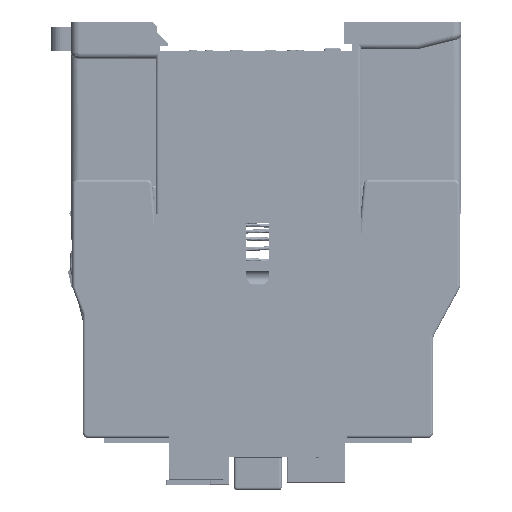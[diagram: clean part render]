
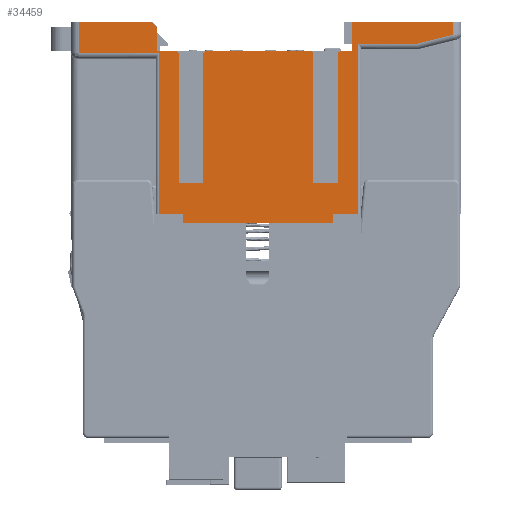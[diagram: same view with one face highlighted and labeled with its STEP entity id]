
A CAD part, left-side view. The second image highlights one B-rep face of the part: STEP entity #34459.
In plain terms, the highlighted planar face has unit normal (-1, 0, 0) as drawn and (1, 0, 0) by its records, which use the part's own axes.
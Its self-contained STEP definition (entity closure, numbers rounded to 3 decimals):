
#697=DIRECTION('',(0.,1.,0.));
#698=VECTOR('',#697,18.5);
#699=CARTESIAN_POINT('',(22.5,-34.15,0.));
#700=LINE('',#699,#698);
#826=DIRECTION('',(0.,1.,0.));
#827=VECTOR('',#826,13.3);
#828=CARTESIAN_POINT('',(22.5,20.85,0.));
#829=LINE('',#828,#827);
#1516=DIRECTION('',(0.,-1.,0.));
#1517=VECTOR('',#1516,27.4);
#1518=CARTESIAN_POINT('',(22.5,15.2,36.8));
#1519=LINE('',#1518,#1517);
#1700=DIRECTION('',(0.,0.707,-0.707));
#1701=VECTOR('',#1700,1.414);
#1702=CARTESIAN_POINT('',(22.5,19.85,1.));
#1703=LINE('',#1702,#1701);
#1704=DIRECTION('',(0.,0.,1.));
#1705=VECTOR('',#1704,4.3);
#1706=CARTESIAN_POINT('',(22.5,19.85,1.));
#1707=LINE('',#1706,#1705);
#1708=DIRECTION('',(0.,1.,0.));
#1709=VECTOR('',#1708,3.295);
#1710=CARTESIAN_POINT('',(22.5,16.555,5.3));
#1711=LINE('',#1710,#1709);
#1712=CARTESIAN_POINT('',(22.5,15.95,5.8));
#1713=CARTESIAN_POINT('',(22.5,15.95,5.708));
#1714=CARTESIAN_POINT('',(22.5,16.,5.574));
#1715=CARTESIAN_POINT('',(22.5,16.176,5.382));
#1716=CARTESIAN_POINT('',(22.5,16.371,5.3));
#1717=CARTESIAN_POINT('',(22.5,16.555,5.3));
#1719=DIRECTION('',(0.,0.,-1.));
#1720=VECTOR('',#1719,23.7);
#1721=CARTESIAN_POINT('',(22.5,15.95,29.5));
#1722=LINE('',#1721,#1720);
#1723=DIRECTION('',(0.,1.,0.));
#1724=VECTOR('',#1723,4.5);
#1725=CARTESIAN_POINT('',(22.5,11.45,29.5));
#1726=LINE('',#1725,#1724);
#1727=DIRECTION('',(0.,0.,1.));
#1728=VECTOR('',#1727,23.7);
#1729=CARTESIAN_POINT('',(22.5,11.45,5.8));
#1730=LINE('',#1729,#1728);
#1731=CARTESIAN_POINT('',(22.5,10.95,5.8));
#1732=DIRECTION('',(1.,0.,0.));
#1733=DIRECTION('',(0.,0.,-1.));
#1734=AXIS2_PLACEMENT_3D('',#1731,#1732,#1733);
#1736=DIRECTION('',(0.,1.,0.));
#1737=VECTOR('',#1736,19.);
#1738=CARTESIAN_POINT('',(22.5,-8.05,5.3));
#1739=LINE('',#1738,#1737);
#1740=CARTESIAN_POINT('',(22.5,-8.05,5.8));
#1741=DIRECTION('',(1.,0.,0.));
#1742=DIRECTION('',(0.,-1.,0.));
#1743=AXIS2_PLACEMENT_3D('',#1740,#1741,#1742);
#1745=DIRECTION('',(0.,0.,1.));
#1746=VECTOR('',#1745,23.7);
#1747=CARTESIAN_POINT('',(22.5,-8.55,5.8));
#1748=LINE('',#1747,#1746);
#1749=DIRECTION('',(0.,1.,0.));
#1750=VECTOR('',#1749,4.6);
#1751=CARTESIAN_POINT('',(22.5,-13.15,29.5));
#1752=LINE('',#1751,#1750);
#1753=DIRECTION('',(0.,0.,-1.));
#1754=VECTOR('',#1753,23.7);
#1755=CARTESIAN_POINT('',(22.5,-13.15,29.5));
#1756=LINE('',#1755,#1754);
#1757=CARTESIAN_POINT('',(22.5,-13.755,5.3));
#1758=CARTESIAN_POINT('',(22.5,-13.571,5.3));
#1759=CARTESIAN_POINT('',(22.5,-13.376,5.382));
#1760=CARTESIAN_POINT('',(22.5,-13.2,5.574));
#1761=CARTESIAN_POINT('',(22.5,-13.15,5.708));
#1762=CARTESIAN_POINT('',(22.5,-13.15,5.8));
#1764=DIRECTION('',(0.,1.,0.));
#1765=VECTOR('',#1764,1.895);
#1766=CARTESIAN_POINT('',(22.5,-15.65,5.3));
#1767=LINE('',#1766,#1765);
#1768=DIRECTION('',(0.,0.,1.));
#1769=VECTOR('',#1768,5.3);
#1770=CARTESIAN_POINT('',(22.5,-15.65,0.));
#1771=LINE('',#1770,#1769);
#1772=DIRECTION('',(0.,0.,-1.));
#1773=VECTOR('',#1772,2.344);
#1774=CARTESIAN_POINT('',(22.5,-34.15,2.344));
#1775=LINE('',#1774,#1773);
#1776=DIRECTION('',(0.,-0.97,-0.243));
#1777=VECTOR('',#1776,6.827);
#1778=CARTESIAN_POINT('',(22.5,-27.527,4.));
#1779=LINE('',#1778,#1777);
#1780=DIRECTION('',(0.,0.,1.));
#1781=VECTOR('',#1780,31.);
#1782=CARTESIAN_POINT('',(22.5,-16.85,4.));
#1783=LINE('',#1782,#1781);
#1784=DIRECTION('',(0.,-1.,0.));
#1785=VECTOR('',#1784,4.65);
#1786=CARTESIAN_POINT('',(22.5,-12.2,35.));
#1787=LINE('',#1786,#1785);
#1788=DIRECTION('',(0.,0.,-1.));
#1789=VECTOR('',#1788,1.8);
#1790=CARTESIAN_POINT('',(22.5,-12.2,36.8));
#1791=LINE('',#1790,#1789);
#1792=DIRECTION('',(0.,0.,-1.));
#1793=VECTOR('',#1792,1.8);
#1794=CARTESIAN_POINT('',(22.5,15.2,36.8));
#1795=LINE('',#1794,#1793);
#1796=DIRECTION('',(0.,-1.,0.));
#1797=VECTOR('',#1796,4.45);
#1798=CARTESIAN_POINT('',(22.5,19.65,35.));
#1799=LINE('',#1798,#1797);
#1800=DIRECTION('',(0.,0.,-1.));
#1801=VECTOR('',#1800,29.3);
#1802=CARTESIAN_POINT('',(22.5,19.65,35.));
#1803=LINE('',#1802,#1801);
#1804=DIRECTION('',(0.,0.,-1.));
#1805=VECTOR('',#1804,5.7);
#1806=CARTESIAN_POINT('',(22.5,34.15,5.7));
#1807=LINE('',#1806,#1805);
#21266=CARTESIAN_POINT('',(22.5,-34.15,2.344));
#23409=DIRECTION('',(0.,-1.,0.));
#23410=VECTOR('',#23409,14.5);
#23411=CARTESIAN_POINT('',(22.5,34.15,5.7));
#23412=LINE('',#23411,#23410);
#24001=DIRECTION('',(0.,-1.,0.));
#24002=VECTOR('',#24001,10.677);
#24003=CARTESIAN_POINT('',(22.5,-16.85,4.));
#24004=LINE('',#24003,#24002);
#24585=CARTESIAN_POINT('',(22.5,-15.65,0.));
#24586=CARTESIAN_POINT('',(22.5,-15.65,5.3));
#24587=VERTEX_POINT('',#24585);
#24588=VERTEX_POINT('',#24586);
#24651=CARTESIAN_POINT('',(22.5,-12.2,35.));
#24652=VERTEX_POINT('',#24651);
#24653=CARTESIAN_POINT('',(22.5,15.2,35.));
#24654=VERTEX_POINT('',#24653);
#24707=CARTESIAN_POINT('',(22.5,11.45,29.5));
#24709=VERTEX_POINT('',#24707);
#24711=CARTESIAN_POINT('',(22.5,-8.55,29.5));
#24713=VERTEX_POINT('',#24711);
#24751=CARTESIAN_POINT('',(22.5,-12.2,36.8));
#24753=VERTEX_POINT('',#24751);
#24756=CARTESIAN_POINT('',(22.5,15.2,36.8));
#24758=VERTEX_POINT('',#24756);
#24892=CARTESIAN_POINT('',(22.5,19.85,5.3));
#24894=VERTEX_POINT('',#24892);
#25373=CARTESIAN_POINT('',(22.5,15.95,29.5));
#25374=VERTEX_POINT('',#25373);
#25375=CARTESIAN_POINT('',(22.5,-13.15,29.5));
#25376=VERTEX_POINT('',#25375);
#32040=CARTESIAN_POINT('',(22.5,34.15,0.));
#32042=VERTEX_POINT('',#32040);
#32043=CARTESIAN_POINT('',(22.5,-34.15,0.));
#32045=VERTEX_POINT('',#32043);
#32063=VERTEX_POINT('',#21266);
#32065=CARTESIAN_POINT('',(22.5,-27.527,4.));
#32066=VERTEX_POINT('',#32065);
#32081=CARTESIAN_POINT('',(22.5,34.15,5.7));
#32082=VERTEX_POINT('',#32081);
#32105=CARTESIAN_POINT('',(22.5,-16.85,4.));
#32106=CARTESIAN_POINT('',(22.5,-16.85,35.));
#32107=VERTEX_POINT('',#32105);
#32108=VERTEX_POINT('',#32106);
#32113=CARTESIAN_POINT('',(22.5,19.65,35.));
#32114=CARTESIAN_POINT('',(22.5,19.65,5.7));
#32115=VERTEX_POINT('',#32113);
#32116=VERTEX_POINT('',#32114);
#32167=CARTESIAN_POINT('',(22.5,-8.55,5.8));
#32168=CARTESIAN_POINT('',(22.5,-8.05,5.3));
#32169=VERTEX_POINT('',#32167);
#32170=VERTEX_POINT('',#32168);
#32179=CARTESIAN_POINT('',(22.5,10.95,5.3));
#32180=VERTEX_POINT('',#32179);
#32181=CARTESIAN_POINT('',(22.5,11.45,5.8));
#32182=VERTEX_POINT('',#32181);
#32199=CARTESIAN_POINT('',(22.5,19.85,1.));
#32200=VERTEX_POINT('',#32199);
#32201=CARTESIAN_POINT('',(22.5,20.85,0.));
#32202=VERTEX_POINT('',#32201);
#32315=CARTESIAN_POINT('',(22.5,15.95,5.8));
#32317=VERTEX_POINT('',#32315);
#32319=VERTEX_POINT('',#1717);
#32322=VERTEX_POINT('',#1757);
#32323=VERTEX_POINT('',#1762);
#34400=CARTESIAN_POINT('',(22.5,-35.65,0.));
#34401=DIRECTION('',(1.,0.,0.));
#34402=DIRECTION('',(0.,1.,0.));
#34403=AXIS2_PLACEMENT_3D('',#34400,#34401,#34402);
#34404=PLANE('',#34403);
#34405=ORIENTED_EDGE('',*,*,#33669,.F.);
#34406=ORIENTED_EDGE('',*,*,#33642,.T.);
#34408=ORIENTED_EDGE('',*,*,#34407,.F.);
#34410=ORIENTED_EDGE('',*,*,#34409,.F.);
#34412=ORIENTED_EDGE('',*,*,#34411,.F.);
#34414=ORIENTED_EDGE('',*,*,#34413,.F.);
#34416=ORIENTED_EDGE('',*,*,#34415,.F.);
#34418=ORIENTED_EDGE('',*,*,#34417,.F.);
#34420=ORIENTED_EDGE('',*,*,#34419,.F.);
#34422=ORIENTED_EDGE('',*,*,#34421,.F.);
#34424=ORIENTED_EDGE('',*,*,#34423,.T.);
#34426=ORIENTED_EDGE('',*,*,#34425,.F.);
#34428=ORIENTED_EDGE('',*,*,#34427,.T.);
#34430=ORIENTED_EDGE('',*,*,#34429,.F.);
#34432=ORIENTED_EDGE('',*,*,#34431,.F.);
#34434=ORIENTED_EDGE('',*,*,#34433,.F.);
#34435=ORIENTED_EDGE('',*,*,#33170,.F.);
#34437=ORIENTED_EDGE('',*,*,#34436,.F.);
#34439=ORIENTED_EDGE('',*,*,#34438,.F.);
#34441=ORIENTED_EDGE('',*,*,#34440,.F.);
#34443=ORIENTED_EDGE('',*,*,#34442,.T.);
#34444=ORIENTED_EDGE('',*,*,#34357,.F.);
#34446=ORIENTED_EDGE('',*,*,#34445,.F.);
#34447=ORIENTED_EDGE('',*,*,#34187,.F.);
#34448=ORIENTED_EDGE('',*,*,#34320,.T.);
#34449=ORIENTED_EDGE('',*,*,#34330,.F.);
#34451=ORIENTED_EDGE('',*,*,#34450,.T.);
#34453=ORIENTED_EDGE('',*,*,#34452,.F.);
#34455=ORIENTED_EDGE('',*,*,#34454,.T.);
#34456=ORIENTED_EDGE('',*,*,#33246,.F.);
#34457=EDGE_LOOP('',(#34405,#34406,#34408,#34410,#34412,#34414,#34416,#34418,
#34420,#34422,#34424,#34426,#34428,#34430,#34432,#34434,#34435,#34437,#34439,
#34441,#34443,#34444,#34446,#34447,#34448,#34449,#34451,#34453,#34455,#34456));
#34458=FACE_OUTER_BOUND('',#34457,.F.);
#34459=ADVANCED_FACE('',(#34458),#34404,.T.);
#1718=B_SPLINE_CURVE_WITH_KNOTS('',3,(#1712,#1713,#1714,#1715,#1716,#1717),
.UNSPECIFIED.,.F.,.F.,(4,1,1,4),(0.,0.25,0.5,1.),.UNSPECIFIED.);
#1735=CIRCLE('',#1734,0.5);
#1744=CIRCLE('',#1743,0.5);
#1763=B_SPLINE_CURVE_WITH_KNOTS('',3,(#1757,#1758,#1759,#1760,#1761,#1762),
.UNSPECIFIED.,.F.,.F.,(4,1,1,4),(0.,0.5,0.75,1.),.UNSPECIFIED.);
#33170=EDGE_CURVE('',#32045,#24587,#700,.T.);
#33246=EDGE_CURVE('',#32202,#32042,#829,.T.);
#33642=EDGE_CURVE('',#32200,#24894,#1707,.T.);
#33669=EDGE_CURVE('',#32200,#32202,#1703,.T.);
#34187=EDGE_CURVE('',#24758,#24753,#1519,.T.);
#34320=EDGE_CURVE('',#24758,#24654,#1795,.T.);
#34330=EDGE_CURVE('',#32115,#24654,#1799,.T.);
#34357=EDGE_CURVE('',#24652,#32108,#1787,.T.);
#34407=EDGE_CURVE('',#32319,#24894,#1711,.T.);
#34409=EDGE_CURVE('',#32317,#32319,#1718,.T.);
#34411=EDGE_CURVE('',#25374,#32317,#1722,.T.);
#34413=EDGE_CURVE('',#24709,#25374,#1726,.T.);
#34415=EDGE_CURVE('',#32182,#24709,#1730,.T.);
#34417=EDGE_CURVE('',#32180,#32182,#1735,.T.);
#34419=EDGE_CURVE('',#32170,#32180,#1739,.T.);
#34421=EDGE_CURVE('',#32169,#32170,#1744,.T.);
#34423=EDGE_CURVE('',#32169,#24713,#1748,.T.);
#34425=EDGE_CURVE('',#25376,#24713,#1752,.T.);
#34427=EDGE_CURVE('',#25376,#32323,#1756,.T.);
#34429=EDGE_CURVE('',#32322,#32323,#1763,.T.);
#34431=EDGE_CURVE('',#24588,#32322,#1767,.T.);
#34433=EDGE_CURVE('',#24587,#24588,#1771,.T.);
#34436=EDGE_CURVE('',#32063,#32045,#1775,.T.);
#34438=EDGE_CURVE('',#32066,#32063,#1779,.T.);
#34440=EDGE_CURVE('',#32107,#32066,#24004,.T.);
#34442=EDGE_CURVE('',#32107,#32108,#1783,.T.);
#34445=EDGE_CURVE('',#24753,#24652,#1791,.T.);
#34450=EDGE_CURVE('',#32115,#32116,#1803,.T.);
#34452=EDGE_CURVE('',#32082,#32116,#23412,.T.);
#34454=EDGE_CURVE('',#32082,#32042,#1807,.T.);
